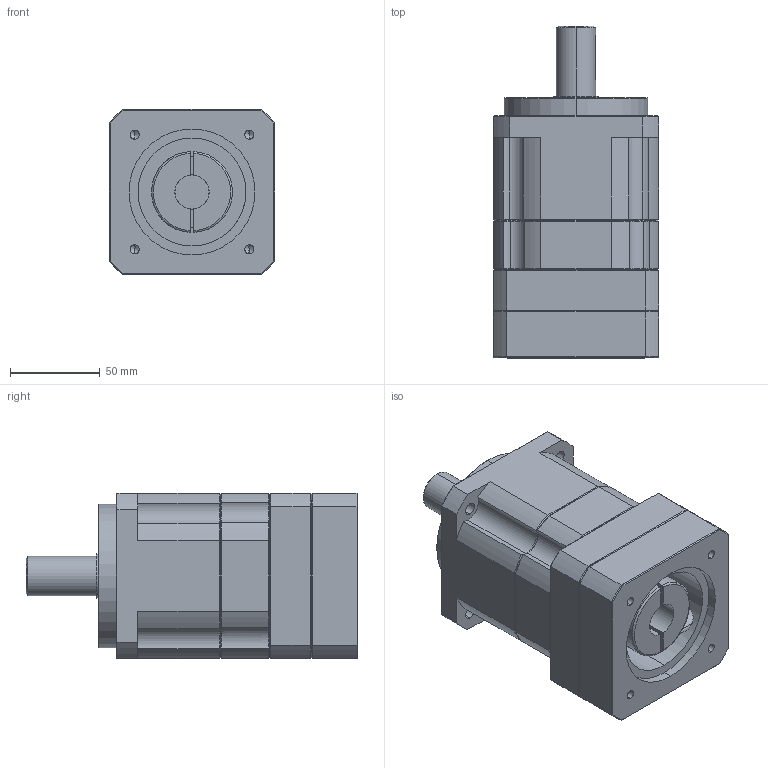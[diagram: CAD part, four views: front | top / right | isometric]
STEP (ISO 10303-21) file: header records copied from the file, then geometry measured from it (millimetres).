
FILE_DESCRIPTION (( 'STEP AP203' ), '1' );
FILE_NAME ('MF90H-L2£r70PCD£r90M6.STEP', '2014-04-21T05:04:18', ( 'KELLY' ), ( '' ), 'SwSTEP 2.0', 'SolidWorks 2012', '' );
FILE_SCHEMA (( 'CONFIG_CONTROL_DESIGN' ));
Length unit declared in the file: millimetre
Products named in the file (1): MF90H-L2｣r70PCD｣r90M6
Bounding box: 92 x 184.5 x 92 mm (x, y, z)
Volume: 1012699.9 mm3; surface area: 116255.5 mm2
Topology: 3 solids, 3 shells, 242 faces, 570 edges, 337 vertices
Faces by surface type: cylinder 84, plane 78, cone 76, torus 4
Entity records: 7315 total; most frequent: CARTESIAN_POINT 1754, DIRECTION 1178, ORIENTED_EDGE 1120, EDGE_CURVE 560, AXIS2_PLACEMENT_3D 479, VERTEX_POINT 337, EDGE_LOOP 269, FACE_OUTER_BOUND 242
